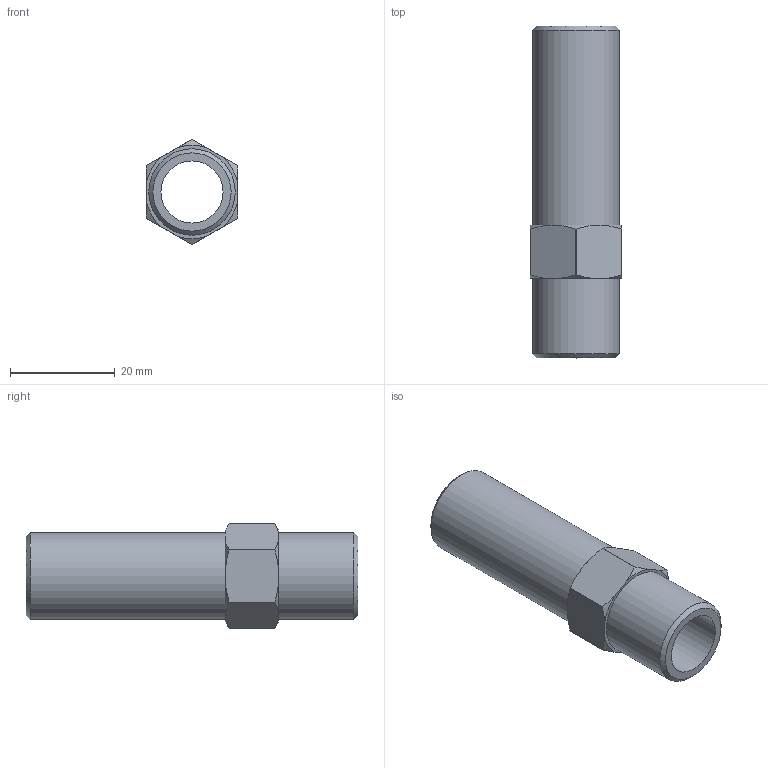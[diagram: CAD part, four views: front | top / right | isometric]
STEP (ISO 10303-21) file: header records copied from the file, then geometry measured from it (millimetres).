
FILE_DESCRIPTION(/* description */ (''),/* implementation_level */ '2;1');
FILE_NAME(/* name */ 'C:/Users/drich/Desktop/APN38-2-1_2 v1.step',/* time_stamp */ '2019-12-27T17:54:10-06:00',/* author */ (''),/* organization */ (''),/* preprocessor_version */ 'ST-DEVELOPER v18',/* originating_system */ 'Autodesk Translation Framework v8.12.0.6',/* authorisation */ '');
FILE_SCHEMA (('AUTOMOTIVE_DESIGN { 1 0 10303 214 3 1 1 }'));
Length unit declared in the file: inch
Products named in the file (1): APN38-2-1_2
Bounding box: 17.45 x 63.5 x 20.12 mm (x, y, z)
Volume: 7049.1 mm3; surface area: 5992.4 mm2
Topology: 1 solids, 1 shells, 33 faces, 89 edges, 60 vertices
Faces by surface type: cone 14, plane 10, cylinder 9
Full cylindrical faces by diameter (mm): 11.887 x1, 16.537 x2
Entity records: 1077 total; most frequent: CARTESIAN_POINT 231, ORIENTED_EDGE 178, DIRECTION 169, EDGE_CURVE 89, AXIS2_PLACEMENT_3D 70, VERTEX_POINT 60, EDGE_LOOP 37, CIRCLE 36
